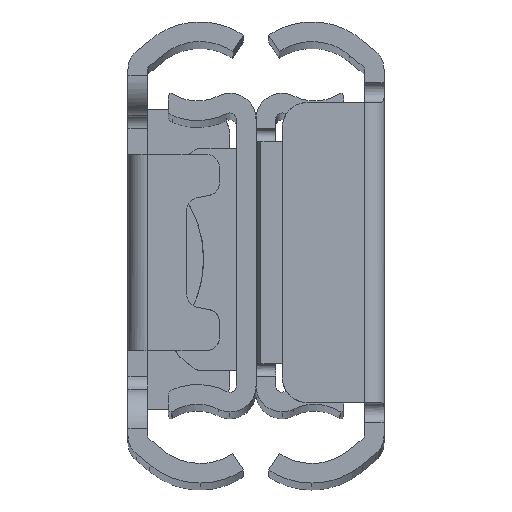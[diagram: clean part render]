
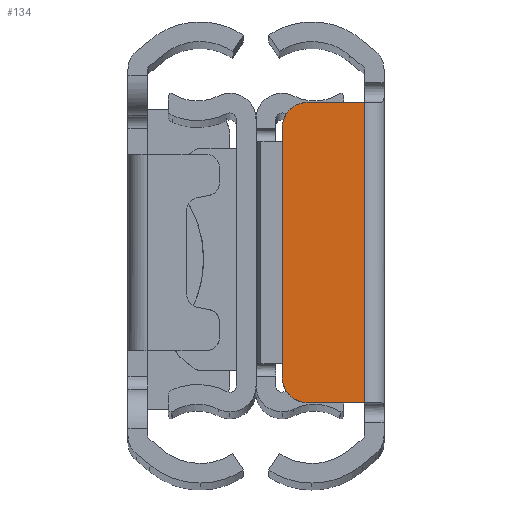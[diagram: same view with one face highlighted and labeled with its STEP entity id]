
A CAD part, top view. The second image highlights one B-rep face of the part: STEP entity #134.
In plain terms, the highlighted planar face has unit normal (0, 0, 1) as drawn and (0, 0, -1) by its records, which use the part's own axes.
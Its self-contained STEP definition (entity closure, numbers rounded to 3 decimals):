
#19 = CARTESIAN_POINT ( 'NONE',  ( 211.8, -9.5, 203.2 ) ) ;
#27 = CARTESIAN_POINT ( 'NONE',  ( 211.8, -9.762, 203.2 ) ) ;
#124 = VERTEX_POINT ( 'NONE', #4711 ) ;
#134 = ADVANCED_FACE ( 'NONE', ( #2150 ), #3662, .F. ) ;
#203 = B_SPLINE_CURVE_WITH_KNOTS ( 'NONE', 3,
 ( #4464, #4434, #2986, #1045 ),
 .UNSPECIFIED., .F., .F.,
 ( 4, 4 ),
 ( 0., 1. ),
 .UNSPECIFIED. ) ;
#402 = CARTESIAN_POINT ( 'NONE',  ( 211.8, -9.5, 203.2 ) ) ;
#500 = EDGE_CURVE ( 'NONE', #1232, #4510, #203, .T. ) ;
#707 = CARTESIAN_POINT ( 'NONE',  ( 215.233, -11.5, 203.2 ) ) ;
#776 = CARTESIAN_POINT ( 'NONE',  ( 211.8, -3.167, 203.2 ) ) ;
#897 = EDGE_CURVE ( 'NONE', #4510, #124, #3243, .T. ) ;
#1045 = CARTESIAN_POINT ( 'NONE',  ( 213.8, 11.5, 203.2 ) ) ;
#1164 = CARTESIAN_POINT ( 'NONE',  ( 218.1, -3.833, 203.2 ) ) ;
#1232 = VERTEX_POINT ( 'NONE', #1529 ) ;
#1341 = CARTESIAN_POINT ( 'NONE',  ( 211.8, -9.5, 203.2 ) ) ;
#1478 = CARTESIAN_POINT ( 'NONE',  ( 213.538, 11.5, 203.2 ) ) ;
#1529 = CARTESIAN_POINT ( 'NONE',  ( 218.1, 11.5, 203.2 ) ) ;
#1627 = CARTESIAN_POINT ( 'NONE',  ( 216.667, -11.5, 203.2 ) ) ;
#1659 = ORIENTED_EDGE ( 'NONE', *, *, #897, .F. ) ;
#1838 = VERTEX_POINT ( 'NONE', #19 ) ;
#1883 = CARTESIAN_POINT ( 'NONE',  ( 212.052, 10.507, 203.2 ) ) ;
#1920 = CARTESIAN_POINT ( 'NONE',  ( 212.793, 11.248, 203.2 ) ) ;
#1958 = CARTESIAN_POINT ( 'NONE',  ( 213.277, 11.448, 203.2 ) ) ;
#1970 = CARTESIAN_POINT ( 'NONE',  ( 212.052, -10.507, 203.2 ) ) ;
#2073 = CARTESIAN_POINT ( 'NONE',  ( 213.8, -11.5, 203.2 ) ) ;
#2150 = FACE_OUTER_BOUND ( 'NONE', #5035, .T. ) ;
#2343 = CARTESIAN_POINT ( 'NONE',  ( 211.852, -10.023, 203.2 ) ) ;
#2354 = CARTESIAN_POINT ( 'NONE',  ( 211.8, 3.167, 203.2 ) ) ;
#2409 = ORIENTED_EDGE ( 'NONE', *, *, #2454, .F. ) ;
#2454 = EDGE_CURVE ( 'NONE', #6252, #1232, #6003, .T. ) ;
#2592 = CARTESIAN_POINT ( 'NONE',  ( 218.1, 3.833, 203.2 ) ) ;
#2725 = DIRECTION ( 'NONE',  ( 0., -1., 0. ) ) ;
#2898 = CARTESIAN_POINT ( 'NONE',  ( 218.1, -11.5, 203.2 ) ) ;
#2986 = CARTESIAN_POINT ( 'NONE',  ( 215.233, 11.5, 203.2 ) ) ;
#3094 = ORIENTED_EDGE ( 'NONE', *, *, #4524, .F. ) ;
#3199 = CARTESIAN_POINT ( 'NONE',  ( 211.8, 9.5, 203.2 ) ) ;
#3243 = B_SPLINE_CURVE_WITH_KNOTS ( 'NONE', 3,
 ( #3974, #1478, #1958, #1920, #5266, #3912, #1883, #3878, #5814, #4862 ),
 .UNSPECIFIED., .F., .F.,
 ( 4, 2, 2, 2, 4 ),
 ( 0., 0.25, 0.5, 0.75, 1. ),
 .UNSPECIFIED. ) ;
#3309 = B_SPLINE_CURVE_WITH_KNOTS ( 'NONE', 3,
 ( #402, #27, #2343, #1970, #3924, #4339, #5794, #5351, #3376, #5320 ),
 .UNSPECIFIED., .F., .F.,
 ( 4, 2, 2, 2, 4 ),
 ( 0., 0.25, 0.5, 0.75, 1. ),
 .UNSPECIFIED. ) ;
#3376 = CARTESIAN_POINT ( 'NONE',  ( 213.538, -11.5, 203.2 ) ) ;
#3548 = CARTESIAN_POINT ( 'NONE',  ( 218.1, -11.5, 203.2 ) ) ;
#3631 = CARTESIAN_POINT ( 'NONE',  ( 214.4, 13.74, 203.2 ) ) ;
#3633 = CARTESIAN_POINT ( 'NONE',  ( 213.8, -11.5, 203.2 ) ) ;
#3639 = ORIENTED_EDGE ( 'NONE', *, *, #5301, .F. ) ;
#3662 = PLANE ( 'NONE',  #5677 ) ;
#3760 = DIRECTION ( 'NONE',  ( 0., 0., 1. ) ) ;
#3878 = CARTESIAN_POINT ( 'NONE',  ( 211.852, 10.023, 203.2 ) ) ;
#3912 = CARTESIAN_POINT ( 'NONE',  ( 212.201, 10.729, 203.2 ) ) ;
#3924 = CARTESIAN_POINT ( 'NONE',  ( 212.201, -10.729, 203.2 ) ) ;
#3974 = CARTESIAN_POINT ( 'NONE',  ( 213.8, 11.5, 203.2 ) ) ;
#4146 = ORIENTED_EDGE ( 'NONE', *, *, #4687, .F. ) ;
#4339 = CARTESIAN_POINT ( 'NONE',  ( 212.571, -11.099, 203.2 ) ) ;
#4434 = CARTESIAN_POINT ( 'NONE',  ( 216.667, 11.5, 203.2 ) ) ;
#4464 = CARTESIAN_POINT ( 'NONE',  ( 218.1, 11.5, 203.2 ) ) ;
#4510 = VERTEX_POINT ( 'NONE', #5204 ) ;
#4524 = EDGE_CURVE ( 'NONE', #124, #1838, #6070, .T. ) ;
#4687 = EDGE_CURVE ( 'NONE', #5447, #6252, #5005, .T. ) ;
#4711 = CARTESIAN_POINT ( 'NONE',  ( 211.8, 9.5, 203.2 ) ) ;
#4862 = CARTESIAN_POINT ( 'NONE',  ( 211.8, 9.5, 203.2 ) ) ;
#5005 = B_SPLINE_CURVE_WITH_KNOTS ( 'NONE', 3,
 ( #2073, #707, #1627, #3548 ),
 .UNSPECIFIED., .F., .F.,
 ( 4, 4 ),
 ( 0., 1. ),
 .UNSPECIFIED. ) ;
#5035 = EDGE_LOOP ( 'NONE', ( #3094, #1659, #5363, #2409, #4146, #3639 ) ) ;
#5204 = CARTESIAN_POINT ( 'NONE',  ( 213.8, 11.5, 203.2 ) ) ;
#5266 = CARTESIAN_POINT ( 'NONE',  ( 212.571, 11.099, 203.2 ) ) ;
#5301 = EDGE_CURVE ( 'NONE', #1838, #5447, #3309, .T. ) ;
#5320 = CARTESIAN_POINT ( 'NONE',  ( 213.8, -11.5, 203.2 ) ) ;
#5351 = CARTESIAN_POINT ( 'NONE',  ( 213.277, -11.448, 203.2 ) ) ;
#5363 = ORIENTED_EDGE ( 'NONE', *, *, #500, .F. ) ;
#5447 = VERTEX_POINT ( 'NONE', #3633 ) ;
#5677 = AXIS2_PLACEMENT_3D ( 'NONE', #3631, #3760, #2725 ) ;
#5794 = CARTESIAN_POINT ( 'NONE',  ( 212.793, -11.248, 203.2 ) ) ;
#5814 = CARTESIAN_POINT ( 'NONE',  ( 211.8, 9.762, 203.2 ) ) ;
#5979 = CARTESIAN_POINT ( 'NONE',  ( 218.1, 11.5, 203.2 ) ) ;
#6003 = B_SPLINE_CURVE_WITH_KNOTS ( 'NONE', 3,
 ( #6287, #1164, #2592, #5979 ),
 .UNSPECIFIED., .F., .F.,
 ( 4, 4 ),
 ( 0., 1. ),
 .UNSPECIFIED. ) ;
#6070 = B_SPLINE_CURVE_WITH_KNOTS ( 'NONE', 3,
 ( #3199, #2354, #776, #1341 ),
 .UNSPECIFIED., .F., .F.,
 ( 4, 4 ),
 ( 0., 1. ),
 .UNSPECIFIED. ) ;
#6252 = VERTEX_POINT ( 'NONE', #2898 ) ;
#6287 = CARTESIAN_POINT ( 'NONE',  ( 218.1, -11.5, 203.2 ) ) ;
